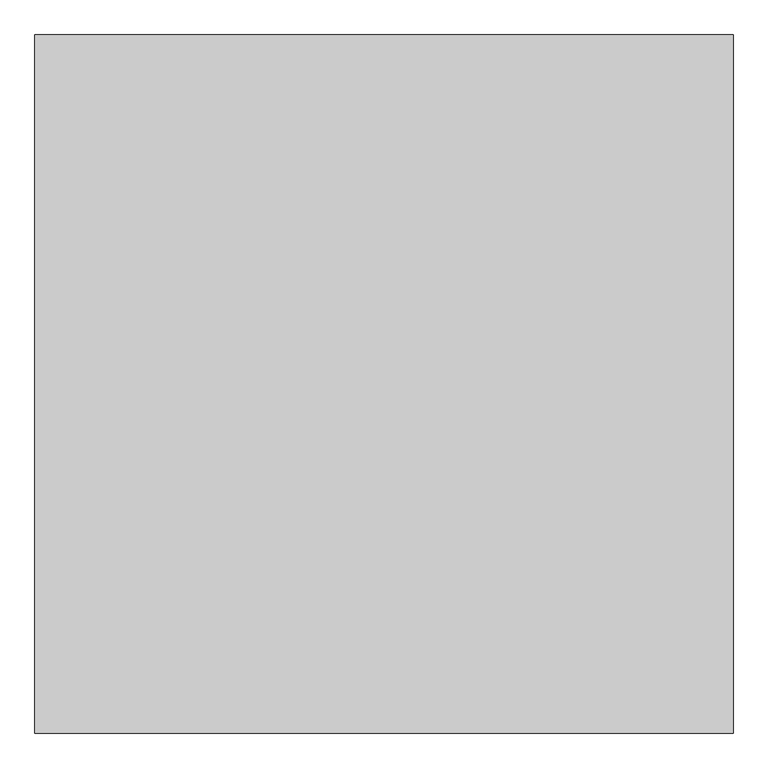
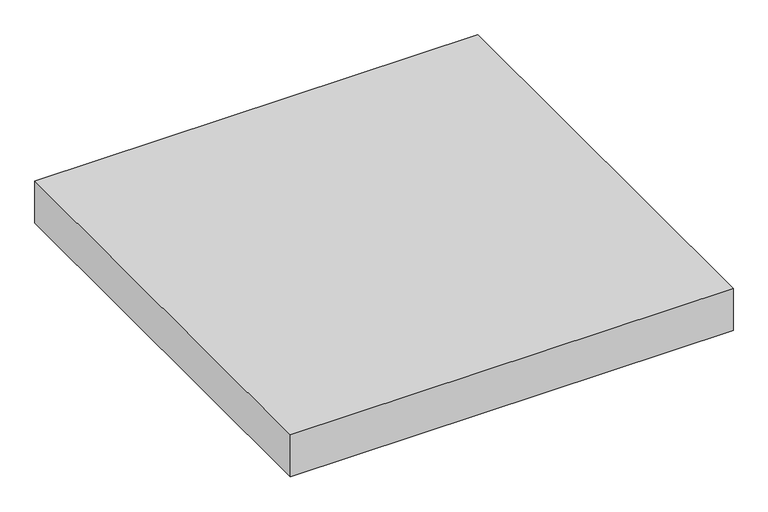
"""IFC4 building model written with IfcOpenShell, lengths in millimetres: proxy geometry, Modelos genéricos 11 : Modelos genéricos 1."""

import ifcopenshell
import ifcopenshell.guid

model = None  # the IFC model being written
_history = None  # IfcOwnerHistory: only IFC2X3 demands one
_inside = {}  # id of a spatial element -> (the spatial element, [elements in it])
_under = {}  # id of a project, library or spatial element -> (it, [spatial elements below it])
_declared = {}  # id of a project -> (the project, [libraries it declares])
_typed = {}  # id of a type object -> (the type object, [elements of that type])
_made_of = {}  # id of a material, layer set ... -> (it, [elements and type objects made of it])


def new_model(schema):
    """Start an empty IFC model of exactly this schema.

    Asked for "IFC4X3", IfcOpenShell would pick the latest addendum, in which some entities
    have other attributes; the version numbers below select the first issue.
    IFC2X3 requires an IfcOwnerHistory on every rooted entity: one is made here for all.
    """
    global model, _history
    if schema == "IFC4X3":
        model = ifcopenshell.file(schema_version=(4, 3, 0, 0))
    else:
        model = ifcopenshell.file(schema=schema)
    _inside.clear()
    _under.clear()
    _declared.clear()
    _typed.clear()
    _made_of.clear()
    _history = None
    if model.schema == "IFC2X3":
        org = make("IfcOrganization", Name="unknown")
        user = make(
            "IfcPersonAndOrganization",
            ThePerson=make("IfcPerson", FamilyName="unknown"),
            TheOrganization=org,
        )
        app = make(
            "IfcApplication",
            ApplicationDeveloper=org,
            Version="unknown",
            ApplicationFullName="unknown",
            ApplicationIdentifier="unknown",
        )
        _history = make(
            "IfcOwnerHistory",
            OwningUser=user,
            OwningApplication=app,
            ChangeAction="ADDED",
            CreationDate=0,
        )
    return model


def make(cls, **values):
    """One entity of the class cls with the attributes given. An attribute that is None is left unset."""
    return model.create_entity(
        cls, **{name: value for name, value in values.items() if value is not None}
    )


def rooted(cls, **values):
    """An entity with a GlobalId (a new one), such as an element, a storey or a relation."""
    return make(cls, GlobalId=ifcopenshell.guid.new(), OwnerHistory=_history, **values)


def si_unit(unit_type, name, prefix=None):
    """IfcSIUnit, for example si_unit("LENGTHUNIT", "METRE", prefix="MILLI")."""
    return make("IfcSIUnit", UnitType=unit_type, Prefix=prefix, Name=name)


def assignment(units):
    """IfcUnitAssignment: the units of a project."""
    return None if units is None else make("IfcUnitAssignment", Units=units)


def point(xyz):
    """IfcCartesianPoint."""
    return None if xyz is None else make("IfcCartesianPoint", Coordinates=xyz)


def direction(xyz):
    """IfcDirection."""
    return None if xyz is None else make("IfcDirection", DirectionRatios=xyz)


def frame(location, z_axis=None, x_axis=None):
    """IfcAxis2Placement3D, a coordinate frame: its origin and axes. An axis left out is left unset."""
    return make(
        "IfcAxis2Placement3D",
        Location=point(location),
        Axis=direction(z_axis),
        RefDirection=direction(x_axis),
    )


def origin():
    """The frame at (0, 0, 0) with its axes left unset."""
    return frame((0.0, 0.0, 0.0))


def origin_with_axes():
    """The frame at (0, 0, 0) with the z axis (0, 0, 1) and the x axis (1, 0, 0) written out."""
    return frame((0.0, 0.0, 0.0), z_axis=(0.0, 0.0, 1.0), x_axis=(1.0, 0.0, 0.0))


def place(relative_to, where):
    """IfcLocalPlacement: puts the frame where relative to a parent placement (None: the world)."""
    return make(
        "IfcLocalPlacement", PlacementRelTo=relative_to, RelativePlacement=where
    )


def context(
    kind, dimensions, precision=None, world=None, true_north=None, identifier=None
):
    """IfcGeometricRepresentationContext, for example the 3D "Model" context."""
    return make(
        "IfcGeometricRepresentationContext",
        ContextIdentifier=identifier,
        ContextType=kind,
        CoordinateSpaceDimension=dimensions,
        Precision=precision,
        WorldCoordinateSystem=world,
        TrueNorth=true_north,
    )


def project(units=None, contexts=None):
    """IfcProject with its units and contexts."""
    return rooted(
        "IfcProject",
        Name="project",
        RepresentationContexts=contexts,
        UnitsInContext=assignment(units),
    )


def spatial(cls, under=None, at=None, **own):
    """A site, building, storey or space (cls), placed at a placement, below another one or the project."""
    s = rooted(cls, ObjectPlacement=at, **own)
    if under is not None:
        _under.setdefault(under.id(), (under, []))[1].append(s)
    return s


def polyline(points):
    """IfcPolyline through the points."""
    return make("IfcPolyline", Points=[point(p) for p in points])


def outline(outer, holes=None, kind="AREA"):
    """IfcArbitraryClosedProfileDef: a profile drawn as a closed curve; with holes, ...WithVoids."""
    if holes is None:
        return make("IfcArbitraryClosedProfileDef", ProfileType=kind, OuterCurve=outer)
    return make(
        "IfcArbitraryProfileDefWithVoids",
        ProfileType=kind,
        OuterCurve=outer,
        InnerCurves=holes,
    )


def extrude(swept, where, along, depth):
    """IfcExtrudedAreaSolid: the profile swept, set in the frame where, extruded along a direction by depth."""
    return make(
        "IfcExtrudedAreaSolid",
        SweptArea=swept,
        Position=where,
        ExtrudedDirection=direction(along),
        Depth=depth,
    )


def shape(context_of_items, identifier, shape_type, items):
    """IfcShapeRepresentation: the items that make up one representation, for example the "Body"."""
    return make(
        "IfcShapeRepresentation",
        ContextOfItems=context_of_items,
        RepresentationIdentifier=identifier,
        RepresentationType=shape_type,
        Items=items,
    )


def source(mapping_origin, context_of_items, identifier, shape_type, items):
    """IfcRepresentationMap: a shape defined once, which mapped items show again and again."""
    return make(
        "IfcRepresentationMap",
        MappingOrigin=mapping_origin,
        MappedRepresentation=shape(context_of_items, identifier, shape_type, items),
    )


def transform(
    local_origin,
    x_axis=None,
    y_axis=None,
    z_axis=None,
    scale=None,
    scale2=None,
    scale3=None,
    uniform=True,
):
    """IfcCartesianTransformationOperator3D, or its non-uniform kind. x_axis, y_axis, z_axis: its Axis1, 2, 3."""
    if uniform:
        return make(
            "IfcCartesianTransformationOperator3D",
            Axis1=direction(x_axis),
            Axis2=direction(y_axis),
            LocalOrigin=point(local_origin),
            Scale=scale,
            Axis3=direction(z_axis),
        )
    return make(
        "IfcCartesianTransformationOperator3DnonUniform",
        Axis1=direction(x_axis),
        Axis2=direction(y_axis),
        LocalOrigin=point(local_origin),
        Scale=scale,
        Axis3=direction(z_axis),
        Scale2=scale2,
        Scale3=scale3,
    )


def mapped(mapping_source, mapping_target):
    """IfcMappedItem: shows the shape of a source again, moved by a transform."""
    return make(
        "IfcMappedItem", MappingSource=mapping_source, MappingTarget=mapping_target
    )


def made_of(thing, what):
    """Note that an element or type object is made of a material, layer set ...; save() writes the relation."""
    if what is not None:
        _made_of.setdefault(what.id(), (what, []))[1].append(thing)
    return thing


def element(
    cls,
    number,
    at=None,
    inside=None,
    cuts=None,
    type_object=None,
    material=None,
    context=None,
    identifier="Body",
    shape_type=None,
    held_by="IfcProductDefinitionShape",
    body=None,
    shapes=None,
    **own,
):
    """One element of the class cls, such as IfcWall. Its Tag is "e" and its number.

    at: its placement. inside: the storey or other place that contains it. cuts: it is an
    opening in that element (IfcRelVoidsElement). A single representation is given by context,
    identifier, shape_type and body (its items); several are given by shapes. held_by: the class
    of the entity that holds the representations. save() writes the other relations.
    """
    e = rooted(cls, Tag="e%d" % number, ObjectPlacement=at, **own)
    if body is not None:
        shapes = [shape(context, identifier, shape_type, body)]
    if shapes is not None:
        e.Representation = make(held_by, Representations=shapes)
    if inside is not None:
        _inside.setdefault(inside.id(), (inside, []))[1].append(e)
    if cuts is not None:
        rooted(
            "IfcRelVoidsElement", RelatingBuildingElement=cuts, RelatedOpeningElement=e
        )
    if type_object is not None:
        _typed.setdefault(type_object.id(), (type_object, []))[1].append(e)
    return made_of(e, material)


def aggregate(whole, parts):
    """IfcRelAggregates: a whole, such as a stair, and the parts it consists of."""
    return rooted("IfcRelAggregates", RelatingObject=whole, RelatedObjects=parts)


def save(model, path):
    """Write the relations noted so far, then the file.

    IfcRelAggregates (storeys below a building ...), IfcRelContainedInSpatialStructure (elements
    in a storey), IfcRelDefinesByType, IfcRelAssociatesMaterial and IfcRelDeclares: one each for
    every whole, place, type object, material and project.
    """
    for whole, parts in _under.values():
        aggregate(whole, parts)
    for where, things in _inside.values():
        rooted(
            "IfcRelContainedInSpatialStructure",
            RelatedElements=things,
            RelatingStructure=where,
        )
    for kind, things in _typed.values():
        rooted("IfcRelDefinesByType", RelatedObjects=things, RelatingType=kind)
    for what, things in _made_of.values():
        rooted("IfcRelAssociatesMaterial", RelatedObjects=things, RelatingMaterial=what)
    for by, libraries in _declared.values():
        rooted("IfcRelDeclares", RelatingContext=by, RelatedDefinitions=libraries)
    model.write(path)


def generic_models_d84b7280(model_context):
    return source(origin(), model_context, "Body", "SweptSolid", [
        extrude(outline(polyline([(-14225.6026359, -13545.712814), (-14225.6026359, -15045.712814), (-15725.6026359, -15045.712814), (-15725.6026359, -13545.712814), (-14225.6026359, -13545.712814)])), origin_with_axes(), (0.0, 0.0, 1.0), 150.0),
    ])


if __name__ == "__main__":
    model = new_model("IFC4")
    model_context = context("Model", 3, world=origin())
    ifc_project = project(units=[si_unit("LENGTHUNIT", "METRE", prefix="MILLI")], contexts=[model_context])
    site = spatial("IfcSite", under=ifc_project)
    building = spatial("IfcBuilding", under=site)
    placement = place(None, origin())
    generic_models_shape = generic_models_d84b7280(model_context)
    element("IfcBuildingElementProxy", 1, Name="Modelos genéricos 11 : Modelos genéricos 1", ObjectType="Modelos genéricos 11 : Modelos genéricos 1", at=placement, inside=building, context=model_context, shape_type="MappedRepresentation", body=[
        mapped(generic_models_shape, transform((0.0, 0.0, 0.0), x_axis=(1.0, 0.0, 0.0), y_axis=(0.0, 1.0, 0.0), z_axis=(0.0, 0.0, 1.0))),
    ])
    save(model, "model.ifc")
